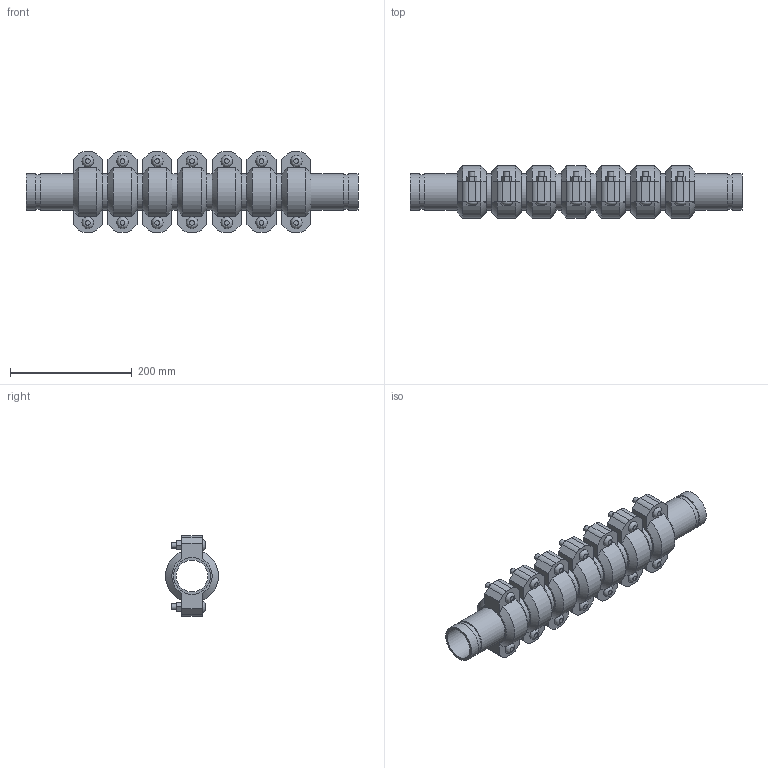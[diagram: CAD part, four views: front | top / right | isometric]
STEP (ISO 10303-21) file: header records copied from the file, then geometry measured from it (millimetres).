
FILE_DESCRIPTION(/* description */ ('VIC EXPANSION JOINT 7 COUPLINGS COMPRESSED STYLE 155 (OGS)','CAx-IF Rec.Pracs.---Representation and Presentation of Product Manufacturing Information (PMI)---4.0---2014-10-13'),/* implementation_level */ '2;1');
FILE_NAME(/* name */ 'C:\Users\kkamble\AppData\Roaming\Autodesk\ApplicationPlugins\Victaulic.Temp\A262\Victaulic_IPS_Expansion Joint_Compressed_7 Couplings_Style 155 (OGS)_2 (50).stp',/* time_stamp */ '2021-06-27T00:33:40+02:00',/* author */ ('kkamble'),/* organization */ ('Victaulic'),/* preprocessor_version */ 'ST-DEVELOPER v17.2',/* originating_system */ 'Autodesk Inventor 2019',/* authorisation */ '');
FILE_SCHEMA (('AP242_MANAGED_MODEL_BASED_3D_ENGINEERING_MIM_LF { 1 0 10303 442 1 1 4 }'));
Length unit declared in the file: inch
Products named in the file (4): 155-02.0; Nipple-02.0; Nipple-02.0_1; 075-02.0
Assembly tree (15 placements, depth 2):
  155-02.0
    Nipple-02.0  x2
    Nipple-02.0_1  x6
    075-02.0  x7
Bounding box: 546.1 x 87.12 x 132.59 mm (x, y, z)
Volume: 1741235.6 mm3; surface area: 483829 mm2
Topology: 15 solids, 29 shells, 467 faces, 1129 edges, 794 vertices
Faces by surface type: plane 286, cylinder 139, cone 28, bspline 14
Full cylindrical faces by diameter (mm): 9.525 x28, 11.43 x14, 52.502 x8, 57.15 x16, 60.325 x31
Entity records: 2739 total; most frequent: CARTESIAN_POINT 485, DIRECTION 455, ORIENTED_EDGE 374, EDGE_CURVE 187, AXIS2_PLACEMENT_3D 182, VERTEX_POINT 134, EDGE_LOOP 101, LINE 91
